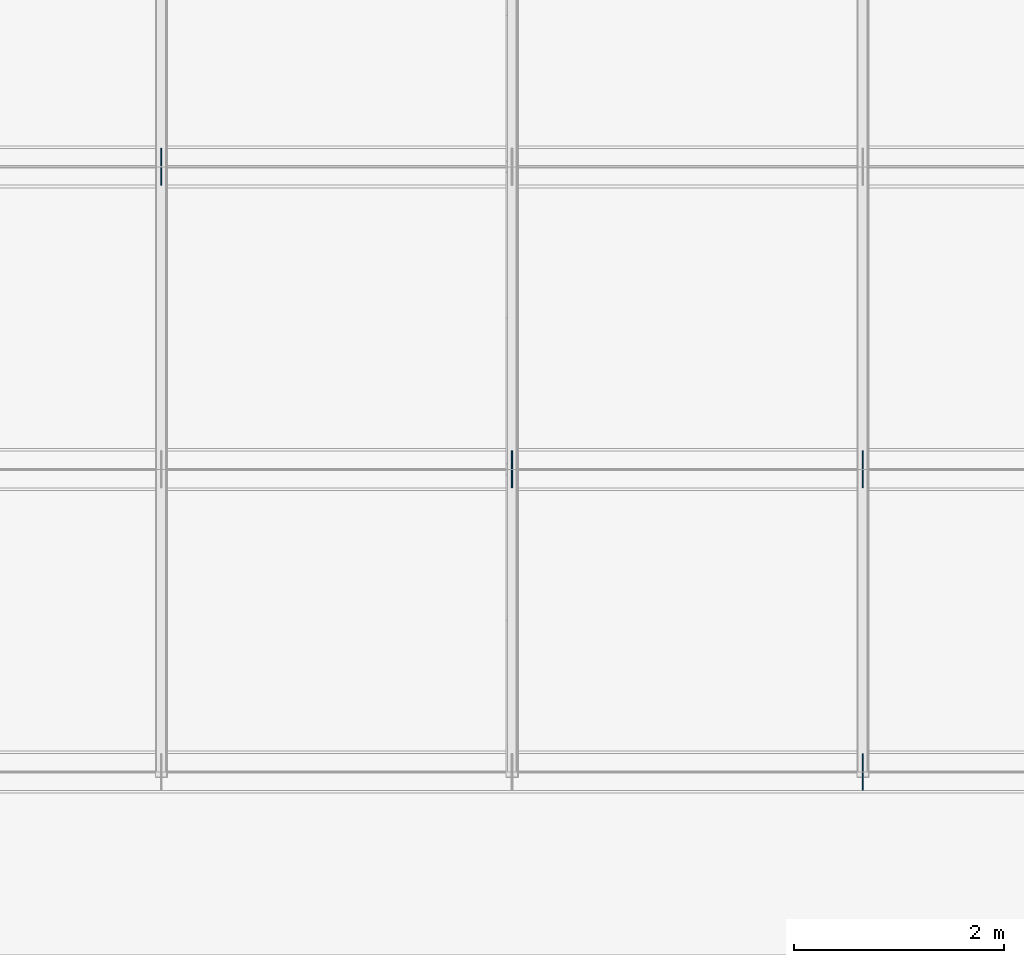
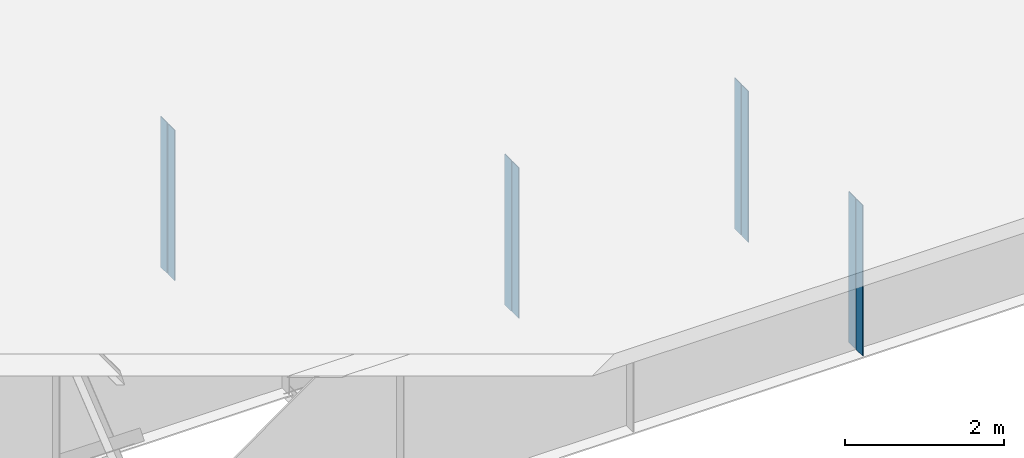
# One storey, part 9 of 15: 8 plates.
"""IFC4 building model written with IfcOpenShell, lengths in metres."""

import ifcopenshell
import ifcopenshell.guid

model = None  # the IFC model being written
_history = None  # IfcOwnerHistory: only IFC2X3 demands one
_inside = {}  # id of a spatial element -> (the spatial element, [elements in it])
_under = {}  # id of a project, library or spatial element -> (it, [spatial elements below it])
_declared = {}  # id of a project -> (the project, [libraries it declares])
_typed = {}  # id of a type object -> (the type object, [elements of that type])
_made_of = {}  # id of a material, layer set ... -> (it, [elements and type objects made of it])


def new_model(schema):
    """Start an empty IFC model of exactly this schema.

    Asked for "IFC4X3", IfcOpenShell would pick the latest addendum, in which some entities
    have other attributes; the version numbers below select the first issue.
    IFC2X3 requires an IfcOwnerHistory on every rooted entity: one is made here for all.
    """
    global model, _history
    if schema == "IFC4X3":
        model = ifcopenshell.file(schema_version=(4, 3, 0, 0))
    else:
        model = ifcopenshell.file(schema=schema)
    _inside.clear()
    _under.clear()
    _declared.clear()
    _typed.clear()
    _made_of.clear()
    _history = None
    if model.schema == "IFC2X3":
        org = make("IfcOrganization", Name="unknown")
        user = make(
            "IfcPersonAndOrganization",
            ThePerson=make("IfcPerson", FamilyName="unknown"),
            TheOrganization=org,
        )
        app = make(
            "IfcApplication",
            ApplicationDeveloper=org,
            Version="unknown",
            ApplicationFullName="unknown",
            ApplicationIdentifier="unknown",
        )
        _history = make(
            "IfcOwnerHistory",
            OwningUser=user,
            OwningApplication=app,
            ChangeAction="ADDED",
            CreationDate=0,
        )
    return model


def make(cls, **values):
    """One entity of the class cls with the attributes given. An attribute that is None is left unset."""
    return model.create_entity(
        cls, **{name: value for name, value in values.items() if value is not None}
    )


def rooted(cls, **values):
    """An entity with a GlobalId (a new one), such as an element, a storey or a relation."""
    return make(cls, GlobalId=ifcopenshell.guid.new(), OwnerHistory=_history, **values)


def si_unit(unit_type, name, prefix=None):
    """IfcSIUnit, for example si_unit("LENGTHUNIT", "METRE", prefix="MILLI")."""
    return make("IfcSIUnit", UnitType=unit_type, Prefix=prefix, Name=name)


def assignment(units):
    """IfcUnitAssignment: the units of a project."""
    return None if units is None else make("IfcUnitAssignment", Units=units)


def point(xyz):
    """IfcCartesianPoint."""
    return None if xyz is None else make("IfcCartesianPoint", Coordinates=xyz)


def direction(xyz):
    """IfcDirection."""
    return None if xyz is None else make("IfcDirection", DirectionRatios=xyz)


def frame(location, z_axis=None, x_axis=None):
    """IfcAxis2Placement3D, a coordinate frame: its origin and axes. An axis left out is left unset."""
    return make(
        "IfcAxis2Placement3D",
        Location=point(location),
        Axis=direction(z_axis),
        RefDirection=direction(x_axis),
    )


def frame_2d(location, x_axis=None):
    """IfcAxis2Placement2D, a coordinate frame in the plane: its origin and x axis."""
    return make(
        "IfcAxis2Placement2D", Location=point(location), RefDirection=direction(x_axis)
    )


def origin():
    """The frame at (0, 0, 0) with its axes left unset."""
    return frame((0.0, 0.0, 0.0))


def origin_with_axes():
    """The frame at (0, 0, 0) with the z axis (0, 0, 1) and the x axis (1, 0, 0) written out."""
    return frame((0.0, 0.0, 0.0), z_axis=(0.0, 0.0, 1.0), x_axis=(1.0, 0.0, 0.0))


def origin_2d_with_axis():
    """The frame at (0, 0) in the plane with the x axis (1, 0) written out."""
    return frame_2d((0.0, 0.0), x_axis=(1.0, 0.0))


def place(relative_to, where):
    """IfcLocalPlacement: puts the frame where relative to a parent placement (None: the world)."""
    return make(
        "IfcLocalPlacement", PlacementRelTo=relative_to, RelativePlacement=where
    )


def context(
    kind, dimensions, precision=None, world=None, true_north=None, identifier=None
):
    """IfcGeometricRepresentationContext, for example the 3D "Model" context."""
    return make(
        "IfcGeometricRepresentationContext",
        ContextIdentifier=identifier,
        ContextType=kind,
        CoordinateSpaceDimension=dimensions,
        Precision=precision,
        WorldCoordinateSystem=world,
        TrueNorth=true_north,
    )


def subcontext(parent, identifier, kind, view, scale=None):
    """IfcGeometricRepresentationSubContext, for example "Body" below "Model"."""
    return make(
        "IfcGeometricRepresentationSubContext",
        ContextIdentifier=identifier,
        ContextType=kind,
        ParentContext=parent,
        TargetScale=scale,
        TargetView=view,
    )


def project(units=None, contexts=None):
    """IfcProject with its units and contexts."""
    return rooted(
        "IfcProject",
        Name="project",
        RepresentationContexts=contexts,
        UnitsInContext=assignment(units),
    )


def spatial(cls, under=None, at=None, **own):
    """A site, building, storey or space (cls), placed at a placement, below another one or the project."""
    s = rooted(cls, ObjectPlacement=at, **own)
    if under is not None:
        _under.setdefault(under.id(), (under, []))[1].append(s)
    return s


def profile(cls, at=None, kind="AREA", **sizes):
    """A parametric profile (cls). Its sizes go by their IFC names, for example OverallWidth=200.0."""
    return make(cls, ProfileType=kind, Position=at, **sizes)


def rectangle(**sizes):
    """IfcRectangleProfileDef."""
    return profile("IfcRectangleProfileDef", **sizes)


def extrude(swept, where, along, depth):
    """IfcExtrudedAreaSolid: the profile swept, set in the frame where, extruded along a direction by depth."""
    return make(
        "IfcExtrudedAreaSolid",
        SweptArea=swept,
        Position=where,
        ExtrudedDirection=direction(along),
        Depth=depth,
    )


def shape(context_of_items, identifier, shape_type, items):
    """IfcShapeRepresentation: the items that make up one representation, for example the "Body"."""
    return make(
        "IfcShapeRepresentation",
        ContextOfItems=context_of_items,
        RepresentationIdentifier=identifier,
        RepresentationType=shape_type,
        Items=items,
    )


def made_of(thing, what):
    """Note that an element or type object is made of a material, layer set ...; save() writes the relation."""
    if what is not None:
        _made_of.setdefault(what.id(), (what, []))[1].append(thing)
    return thing


def element(
    cls,
    number,
    at=None,
    inside=None,
    cuts=None,
    type_object=None,
    material=None,
    context=None,
    identifier="Body",
    shape_type=None,
    held_by="IfcProductDefinitionShape",
    body=None,
    shapes=None,
    **own,
):
    """One element of the class cls, such as IfcWall. Its Tag is "e" and its number.

    at: its placement. inside: the storey or other place that contains it. cuts: it is an
    opening in that element (IfcRelVoidsElement). A single representation is given by context,
    identifier, shape_type and body (its items); several are given by shapes. held_by: the class
    of the entity that holds the representations. save() writes the other relations.
    """
    e = rooted(cls, Tag="e%d" % number, ObjectPlacement=at, **own)
    if body is not None:
        shapes = [shape(context, identifier, shape_type, body)]
    if shapes is not None:
        e.Representation = make(held_by, Representations=shapes)
    if inside is not None:
        _inside.setdefault(inside.id(), (inside, []))[1].append(e)
    if cuts is not None:
        rooted(
            "IfcRelVoidsElement", RelatingBuildingElement=cuts, RelatedOpeningElement=e
        )
    if type_object is not None:
        _typed.setdefault(type_object.id(), (type_object, []))[1].append(e)
    return made_of(e, material)


def aggregate(whole, parts):
    """IfcRelAggregates: a whole, such as a stair, and the parts it consists of."""
    return rooted("IfcRelAggregates", RelatingObject=whole, RelatedObjects=parts)


def save(model, path):
    """Write the relations noted so far, then the file.

    IfcRelAggregates (storeys below a building ...), IfcRelContainedInSpatialStructure (elements
    in a storey), IfcRelDefinesByType, IfcRelAssociatesMaterial and IfcRelDeclares: one each for
    every whole, place, type object, material and project.
    """
    for whole, parts in _under.values():
        aggregate(whole, parts)
    for where, things in _inside.values():
        rooted(
            "IfcRelContainedInSpatialStructure",
            RelatedElements=things,
            RelatingStructure=where,
        )
    for kind, things in _typed.values():
        rooted("IfcRelDefinesByType", RelatedObjects=things, RelatingType=kind)
    for what, things in _made_of.values():
        rooted("IfcRelAssociatesMaterial", RelatedObjects=things, RelatingMaterial=what)
    for by, libraries in _declared.values():
        rooted("IfcRelDeclares", RelatingContext=by, RelatedDefinitions=libraries)
    model.write(path)


model = new_model("IFC4")

# Units and contexts
model_context = context("Model", 3, precision=1e-05, world=origin())
body_context = subcontext(model_context, "Body", "Model", "MODEL_VIEW")
ifc_project = project(units=[si_unit("LENGTHUNIT", "METRE"), si_unit("AREAUNIT", "SQUARE_METRE"), si_unit("VOLUMEUNIT", "CUBIC_METRE"), si_unit("PLANEANGLEUNIT", "RADIAN")], contexts=[model_context])

# Site, building, storey
site_placement = place(None, origin_with_axes())
site = spatial("IfcSite", under=ifc_project, at=site_placement, Name="Default Site")
building_placement = place(site_placement, origin_with_axes())
building = spatial("IfcBuilding", under=site, at=building_placement, Name="Bridge Structure")
storey_placement = place(building_placement, origin_with_axes())
storey = spatial("IfcBuildingStorey", under=building, at=storey_placement, Name="Superstructure")

# Plates
for number, where, z_axis, x_axis, name in (
    (1, (23.331, -4.221, -1.157), (0.0, 0.0, 1.0), (1.0, 0.0, 0.0), "Intermediate Stiffener 1"),
    (2, (23.331, -4.404, -1.157), (0.0, 0.0, 1.0), (1.0, 0.0, 0.0), "Intermediate Stiffener 1"),
    (3, (19.998, -1.346, -1.157), (0.0, 0.0, 1.0), (1.0, 0.0, 0.0), "Intermediate Stiffener 2"),
    (4, (19.998, -1.5290000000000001, -1.157), (0.0, 0.0, 1.0), (1.0, 0.0, 0.0), "Intermediate Stiffener 2"),
    (5, (23.331, -1.346, -1.157), (0.0, 0.0, 1.0), (1.0, 0.0, 0.0), "Intermediate Stiffener 2"),
    (6, (23.331, -1.5290000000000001, -1.157), (0.0, 0.0, 1.0), (1.0, 0.0, 0.0), "Intermediate Stiffener 2"),
    (7, (16.665, 1.5290000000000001, -1.157), (0.0, 0.0, 1.0), (1.0, 0.0, 0.0), "Intermediate Stiffener 3"),
    (8, (16.665, 1.346, -1.157), (0.0, 0.0, 1.0), (1.0, 0.0, 0.0), "Intermediate Stiffener 3"),
):
    element("IfcPlate", number, at=place(storey_placement, frame(where, z_axis=z_axis, x_axis=x_axis)), inside=storey, Name=name, context=body_context, shape_type="SweptSolid", body=[
        extrude(rectangle(XDim=0.012, YDim=0.167, at=origin_2d_with_axis()), origin_with_axes(), (0.0, 0.0, 1.0), 2.314),
    ])

save(model, "model.ifc")
